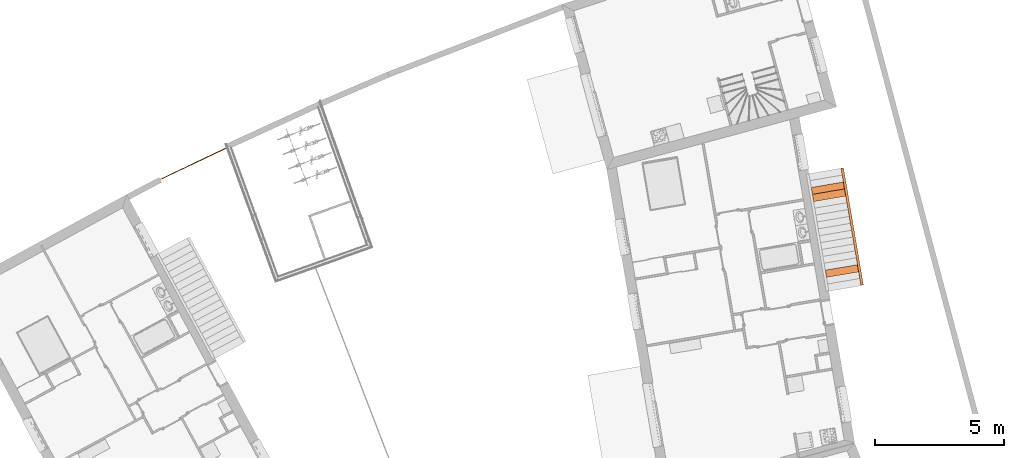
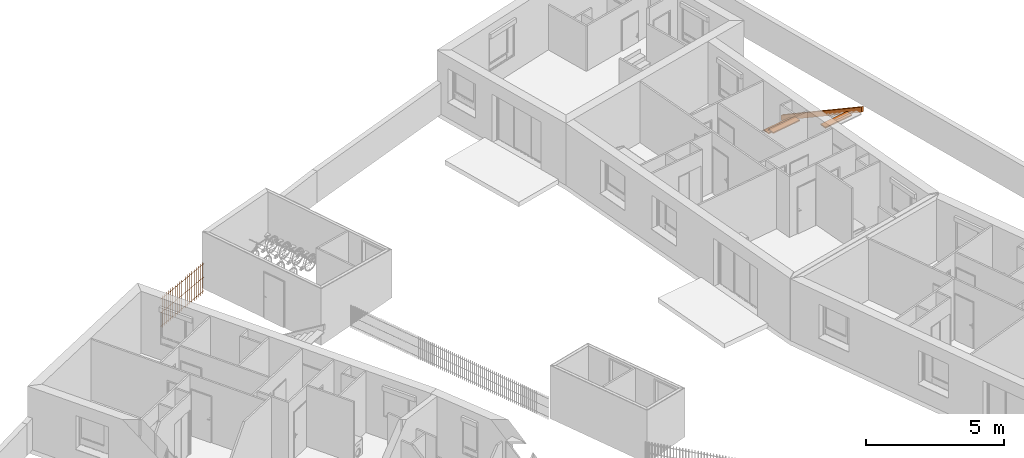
# One storey, part 194 of 195: 5 proxies, 1 element without a shape of its own.
"""IFC2X3 building model written with IfcOpenShell, lengths in metres."""

from ifc_helpers import new_model, entity, si_unit, converted_unit, derived_unit, money_unit, direction, frame, origin_with_axes, place, context, subcontext, project, spatial, faceted_brep, material, type_object, element, aggregate, save


model = new_model("IFC2X3")

# Units and contexts
model_context = context("Model", 3, precision=1e-05, world=origin_with_axes(), true_north=direction((0.0, 1.0)))
body_context = subcontext(model_context, "Body", "Model", "MODEL_VIEW")
ifc_project = project(units=[si_unit("LENGTHUNIT", "METRE"), si_unit("AREAUNIT", "SQUARE_METRE"), si_unit("VOLUMEUNIT", "CUBIC_METRE"), converted_unit("PLANEANGLEUNIT", "DEGREE", entity("IfcPlaneAngleMeasure", 0.0174532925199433), si_unit("PLANEANGLEUNIT", "RADIAN"), dimensions=[0, 0, 0, 0, 0, 0, 0]), money_unit("CHF"), converted_unit("TIMEUNIT", "Year", entity("IfcTimeMeasure", 31557600.0), si_unit("TIMEUNIT", "SECOND"), dimensions=[0, 0, 1, 0, 0, 0, 0]), si_unit("MASSUNIT", "GRAM", prefix="KILO"), si_unit("THERMODYNAMICTEMPERATUREUNIT", "DEGREE_CELSIUS"), si_unit("LUMINOUSINTENSITYUNIT", "LUMEN"), si_unit("ENERGYUNIT", "JOULE", prefix="MEGA"), derived_unit("THERMALCONDUCTANCEUNIT", [(si_unit("POWERUNIT", "WATT"), 1), (si_unit("LENGTHUNIT", "METRE"), -1), (si_unit("THERMODYNAMICTEMPERATUREUNIT", "KELVIN"), -1)]), derived_unit("SPECIFICHEATCAPACITYUNIT", [(si_unit("ENERGYUNIT", "JOULE"), 1), (si_unit("MASSUNIT", "GRAM", prefix="KILO"), -1), (si_unit("THERMODYNAMICTEMPERATUREUNIT", "KELVIN"), -1)]), derived_unit("MASSDENSITYUNIT", [(si_unit("MASSUNIT", "GRAM", prefix="KILO"), 1), (si_unit("VOLUMEUNIT", "CUBIC_METRE"), -1)])], contexts=[model_context])

# Site, building, storey
site_placement = place(None, origin_with_axes())
site = spatial("IfcSite", under=ifc_project, at=site_placement, Name="Site", CompositionType="ELEMENT")
building_placement = place(site_placement, origin_with_axes())
building = spatial("IfcBuilding", under=site, at=building_placement, Name="Bâtiment", CompositionType="ELEMENT")
storey_placement = place(building_placement, origin_with_axes())
storey = spatial("IfcBuildingStorey", under=building, at=storey_placement, Name="rdc", CompositionType="ELEMENT", Elevation=0.0)

# Stair, proxies
stair_placement = place(storey_placement, frame((9588.879218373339, -1022.991794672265, 57.33248236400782), z_axis=(0.0, 0.0, 1.0), x_axis=(0.0973908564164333, 0.9952462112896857, 0.0)))
stair = element("IfcStair", 1, at=stair_placement, inside=storey, Name="ESC-028", ShapeType="NOTDEFINED")
ifc_material_1 = material(Name="Isolant styromousse 288701002")
building_element_proxy_type_1 = type_object("IfcBuildingElementProxyType", Name="IfcBuildingElementProxy", PredefinedType="NOTDEFINED")
proxy_1_placement = place(stair_placement, origin_with_axes())
proxy_1 = element("IfcBuildingElementProxy", 2, at=proxy_1_placement, type_object=building_element_proxy_type_1, material=ifc_material_1, Name="SS - 039", context=body_context, shape_type="Brep", body=[
    faceted_brep([(-4.428745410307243, -1.205949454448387, 2.882482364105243), (-4.428745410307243, -1.205949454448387, 3.117517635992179), (0.0, 0.0, 0.2841843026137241), (0.0, 0.0, 0.04914903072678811), (-4.402472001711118, -1.302436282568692, 3.117517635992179), (-4.402472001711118, -1.302436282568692, 2.882482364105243), (0.02627340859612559, -0.09648682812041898, 0.2841843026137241), (0.02627340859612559, -0.09648682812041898, 0.04914903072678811)], [[[0, 1, 2, 3]], [[4, 1, 0, 5]], [[1, 4, 6, 2]], [[2, 6, 7, 3]], [[5, 0, 3, 7]], [[4, 5, 7, 6]]]),
])
ifc_material_2 = material(Name="Lame d'air 275581351")
proxy_2_placement = place(stair_placement, frame((-0.6484549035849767, 0.3260847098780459, 0.5), z_axis=(0.0, 0.0, 1.0), x_axis=(-0.2627340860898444, 0.9648682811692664, 0.0)))
proxy_2 = element("IfcBuildingElementProxy", 3, at=proxy_2_placement, type_object=building_element_proxy_type_1, material=ifc_material_2, Name="MARCHE-539", context=body_context, shape_type="Brep", body=[
    faceted_brep([(-0.4850000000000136, 0.0, -0.04999999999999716), (0.7724423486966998, 2.853539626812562e-10, -0.04999999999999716), (0.7724423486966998, 2.853539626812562e-10, 0.0), (-0.4850000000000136, 0.0, 0.0), (-0.4849999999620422, 0.2849999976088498, -0.04999999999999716), (0.772442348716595, 0.2849999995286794, -0.04999999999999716), (0.772442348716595, 0.2849999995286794, 0.0), (-0.4849999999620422, 0.2849999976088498, 0.0)], [[[0, 1, 2, 3]], [[0, 4, 5, 1]], [[1, 5, 6, 2]], [[3, 2, 6, 7]], [[4, 0, 3, 7]], [[5, 4, 7, 6]]]),
])
proxy_3_placement = place(stair_placement, frame((-0.9089693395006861, 0.2551465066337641, 0.6666666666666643), z_axis=(0.0, 0.0, 1.0), x_axis=(-0.2627340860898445, 0.9648682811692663, 0.0)))
proxy_3 = element("IfcBuildingElementProxy", 4, at=proxy_3_placement, type_object=building_element_proxy_type_1, material=ifc_material_2, Name="MARCHE-540", context=body_context, shape_type="Brep", body=[
    faceted_brep([(-0.4850000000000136, 0.0, -0.04999999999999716), (0.7724423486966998, 2.853539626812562e-10, -0.04999999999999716), (0.7724423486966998, 2.853539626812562e-10, 0.0), (-0.4850000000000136, 0.0, 0.0), (-0.4849999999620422, 0.2849999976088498, -0.04999999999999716), (0.772442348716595, 0.2849999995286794, -0.04999999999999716), (0.772442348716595, 0.2849999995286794, 0.0), (-0.4849999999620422, 0.2849999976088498, 0.0)], [[[0, 1, 2, 3]], [[0, 4, 5, 1]], [[1, 5, 6, 2]], [[3, 2, 6, 7]], [[4, 0, 3, 7]], [[5, 4, 7, 6]]]),
])
proxy_4_placement = place(stair_placement, frame((-3.774628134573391, -0.5251737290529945, 2.5), z_axis=(0.0, 0.0, 1.0), x_axis=(-0.2627340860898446, 0.9648682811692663, 0.0)))
proxy_4 = element("IfcBuildingElementProxy", 5, at=proxy_4_placement, type_object=building_element_proxy_type_1, material=ifc_material_2, Name="MARCHE-551", context=body_context, shape_type="Brep", body=[
    faceted_brep([(-0.4850000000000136, 0.0, -0.04999999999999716), (0.7724423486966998, 2.853255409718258e-10, -0.04999999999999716), (0.7724423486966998, 2.853255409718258e-10, 0.0), (-0.4850000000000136, 0.0, 0.0), (-0.4849999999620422, 0.2849999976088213, -0.04999999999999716), (0.7724423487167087, 0.284999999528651, -0.04999999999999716), (0.7724423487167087, 0.284999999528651, 0.0), (-0.4849999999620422, 0.2849999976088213, 0.0)], [[[0, 1, 2, 3]], [[0, 4, 5, 1]], [[1, 5, 6, 2]], [[3, 2, 6, 7]], [[4, 0, 3, 7]], [[5, 4, 7, 6]]]),
])
aggregate(stair, [proxy_1, proxy_2, proxy_3, proxy_4])

# Proxy
building_element_proxy_type_2 = type_object("IfcBuildingElementProxyType", Name="Grille anti-effraction", PredefinedType="NOTDEFINED")
proxy_5_placement = place(storey_placement, frame((9563.855791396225, -1022.821889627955, 57.6), z_axis=(0.0, 0.0, 1.0), x_axis=(-0.9033265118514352, -0.4289536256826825, 0.0)))
element("IfcBuildingElementProxy", 6, at=proxy_5_placement, inside=storey, type_object=building_element_proxy_type_2, Name="Obj.-010", context=body_context, shape_type="Brep", body=[
    faceted_brep([(1.38612976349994, -0.01, 0.1), (1.38612976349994, 0.0, 0.09000000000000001), (1.38612976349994, 0.01, 0.1), (1.38612976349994, 0.0, 0.11), (-1.38612976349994, -0.01, 0.1000000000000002), (-1.38612976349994, 0.0, 0.09000000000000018), (-1.38612976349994, 0.01, 0.1000000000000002), (-1.38612976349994, 0.0, 0.1100000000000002)], [[[0, 1, 2, 3]], [[0, 4, 5, 1]], [[1, 5, 6, 2]], [[2, 6, 7, 3]], [[3, 7, 4, 0]], [[4, 7, 6, 5]]]),
    faceted_brep([(1.38612976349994, -0.01, 0.7), (1.38612976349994, 0.0, 0.69), (1.38612976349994, 0.01, 0.7), (1.38612976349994, 0.0, 0.71), (-1.38612976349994, -0.01, 0.7000000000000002), (-1.38612976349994, 0.0, 0.6900000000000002), (-1.38612976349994, 0.01, 0.7000000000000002), (-1.38612976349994, 0.0, 0.7100000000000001)], [[[0, 1, 2, 3]], [[0, 4, 5, 1]], [[1, 5, 6, 2]], [[2, 6, 7, 3]], [[3, 7, 4, 0]], [[4, 7, 6, 5]]]),
    faceted_brep([(1.38612976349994, -0.01, 1.3), (1.38612976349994, 0.0, 1.29), (1.38612976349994, 0.01, 1.3), (1.38612976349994, 0.0, 1.31), (-1.38612976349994, -0.01, 1.3), (-1.38612976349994, 0.0, 1.29), (-1.38612976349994, 0.01, 1.3), (-1.38612976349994, 0.0, 1.31)], [[[0, 1, 2, 3]], [[0, 4, 5, 1]], [[1, 5, 6, 2]], [[2, 6, 7, 3]], [[3, 7, 4, 0]], [[4, 7, 6, 5]]]),
    faceted_brep([(1.28612976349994, -0.01, 0.0), (1.27612976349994, 0.0, 0.0), (1.28612976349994, 0.01, 0.0), (1.29612976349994, 0.0, 0.0), (1.28612976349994, -0.01, 1.4), (1.27612976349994, 0.0, 1.4), (1.28612976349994, 0.01, 1.4), (1.29612976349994, 0.0, 1.4)], [[[0, 1, 2, 3]], [[0, 4, 5, 1]], [[1, 5, 6, 2]], [[2, 6, 7, 3]], [[3, 7, 4, 0]], [[4, 7, 6, 5]]]),
    faceted_brep([(1.150747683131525, -0.01, 0.0), (1.140747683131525, 0.0, 0.0), (1.150747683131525, 0.01, 0.0), (1.160747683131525, 0.0, 0.0), (1.150747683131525, -0.01, 1.4), (1.140747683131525, 0.0, 1.4), (1.150747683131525, 0.01, 1.4), (1.160747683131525, 0.0, 1.4)], [[[0, 1, 2, 3]], [[0, 4, 5, 1]], [[1, 5, 6, 2]], [[2, 6, 7, 3]], [[3, 7, 4, 0]], [[4, 7, 6, 5]]]),
    faceted_brep([(1.01536560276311, -0.01, 0.0), (1.00536560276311, 0.0, 0.0), (1.01536560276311, 0.01, 0.0), (1.02536560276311, 0.0, 0.0), (1.01536560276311, -0.01, 1.4), (1.00536560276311, 0.0, 1.4), (1.01536560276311, 0.01, 1.4), (1.02536560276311, 0.0, 1.4)], [[[0, 1, 2, 3]], [[0, 4, 5, 1]], [[1, 5, 6, 2]], [[2, 6, 7, 3]], [[3, 7, 4, 0]], [[4, 7, 6, 5]]]),
    faceted_brep([(0.8799835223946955, -0.01, 0.0), (0.8699835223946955, 0.0, 0.0), (0.8799835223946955, 0.01, 0.0), (0.8899835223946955, 0.0, 0.0), (0.8799835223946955, -0.01, 1.4), (0.8699835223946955, 0.0, 1.4), (0.8799835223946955, 0.01, 1.4), (0.8899835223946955, 0.0, 1.4)], [[[0, 1, 2, 3]], [[0, 4, 5, 1]], [[1, 5, 6, 2]], [[2, 6, 7, 3]], [[3, 7, 4, 0]], [[4, 7, 6, 5]]]),
    faceted_brep([(0.7446014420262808, -0.01, 0.0), (0.7346014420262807, 0.0, 0.0), (0.7446014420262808, 0.01, 0.0), (0.7546014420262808, 0.0, 0.0), (0.7446014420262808, -0.01, 1.4), (0.7346014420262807, 0.0, 1.4), (0.7446014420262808, 0.01, 1.4), (0.7546014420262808, 0.0, 1.4)], [[[0, 1, 2, 3]], [[0, 4, 5, 1]], [[1, 5, 6, 2]], [[2, 6, 7, 3]], [[3, 7, 4, 0]], [[4, 7, 6, 5]]]),
    faceted_brep([(0.609219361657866, -0.01, 0.0), (0.599219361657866, 0.0, 0.0), (0.609219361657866, 0.01, 0.0), (0.6192193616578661, 0.0, 0.0), (0.609219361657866, -0.01, 1.4), (0.599219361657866, 0.0, 1.4), (0.609219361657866, 0.01, 1.4), (0.6192193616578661, 0.0, 1.4)], [[[0, 1, 2, 3]], [[0, 4, 5, 1]], [[1, 5, 6, 2]], [[2, 6, 7, 3]], [[3, 7, 4, 0]], [[4, 7, 6, 5]]]),
    faceted_brep([(0.4738372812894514, -0.01, 0.0), (0.4638372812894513, 0.0, 0.0), (0.4738372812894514, 0.01, 0.0), (0.4838372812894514, 0.0, 0.0), (0.4738372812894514, -0.01, 1.4), (0.4638372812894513, 0.0, 1.4), (0.4738372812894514, 0.01, 1.4), (0.4838372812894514, 0.0, 1.4)], [[[0, 1, 2, 3]], [[0, 4, 5, 1]], [[1, 5, 6, 2]], [[2, 6, 7, 3]], [[3, 7, 4, 0]], [[4, 7, 6, 5]]]),
    faceted_brep([(0.3384552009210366, -0.01, 0.0), (0.3284552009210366, 0.0, 0.0), (0.3384552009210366, 0.01, 0.0), (0.3484552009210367, 0.0, 0.0), (0.3384552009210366, -0.01, 1.4), (0.3284552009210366, 0.0, 1.4), (0.3384552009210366, 0.01, 1.4), (0.3484552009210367, 0.0, 1.4)], [[[0, 1, 2, 3]], [[0, 4, 5, 1]], [[1, 5, 6, 2]], [[2, 6, 7, 3]], [[3, 7, 4, 0]], [[4, 7, 6, 5]]]),
    faceted_brep([(0.2030731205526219, -0.01, 0.0), (0.1930731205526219, 0.0, 0.0), (0.2030731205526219, 0.01, 0.0), (0.213073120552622, 0.0, 0.0), (0.2030731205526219, -0.01, 1.4), (0.1930731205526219, 0.0, 1.4), (0.2030731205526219, 0.01, 1.4), (0.213073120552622, 0.0, 1.4)], [[[0, 1, 2, 3]], [[0, 4, 5, 1]], [[1, 5, 6, 2]], [[2, 6, 7, 3]], [[3, 7, 4, 0]], [[4, 7, 6, 5]]]),
    faceted_brep([(0.06769104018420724, -0.01, 0.0), (0.05769104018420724, 0.0, 0.0), (0.06769104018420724, 0.01, 0.0), (0.07769104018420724, 0.0, 0.0), (0.06769104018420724, -0.01, 1.4), (0.05769104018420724, 0.0, 1.4), (0.06769104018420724, 0.01, 1.4), (0.07769104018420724, 0.0, 1.4)], [[[0, 1, 2, 3]], [[0, 4, 5, 1]], [[1, 5, 6, 2]], [[2, 6, 7, 3]], [[3, 7, 4, 0]], [[4, 7, 6, 5]]]),
    faceted_brep([(-0.06769104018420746, -0.01, 0.0), (-0.07769104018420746, 0.0, 0.0), (-0.06769104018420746, 0.01, 0.0), (-0.05769104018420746, 0.0, 0.0), (-0.06769104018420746, -0.01, 1.4), (-0.07769104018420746, 0.0, 1.4), (-0.06769104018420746, 0.01, 1.4), (-0.05769104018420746, 0.0, 1.4)], [[[0, 1, 2, 3]], [[0, 4, 5, 1]], [[1, 5, 6, 2]], [[2, 6, 7, 3]], [[3, 7, 4, 0]], [[4, 7, 6, 5]]]),
    faceted_brep([(-0.2030731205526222, -0.01, 0.0), (-0.2130731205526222, 0.0, 0.0), (-0.2030731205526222, 0.01, 0.0), (-0.1930731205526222, 0.0, 0.0), (-0.2030731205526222, -0.01, 1.4), (-0.2130731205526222, 0.0, 1.4), (-0.2030731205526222, 0.01, 1.4), (-0.1930731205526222, 0.0, 1.4)], [[[0, 1, 2, 3]], [[0, 4, 5, 1]], [[1, 5, 6, 2]], [[2, 6, 7, 3]], [[3, 7, 4, 0]], [[4, 7, 6, 5]]]),
    faceted_brep([(-0.3384552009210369, -0.01, 0.0), (-0.3484552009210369, 0.0, 0.0), (-0.3384552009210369, 0.01, 0.0), (-0.3284552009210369, 0.0, 0.0), (-0.3384552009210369, -0.01, 1.4), (-0.3484552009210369, 0.0, 1.4), (-0.3384552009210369, 0.01, 1.4), (-0.3284552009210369, 0.0, 1.4)], [[[0, 1, 2, 3]], [[0, 4, 5, 1]], [[1, 5, 6, 2]], [[2, 6, 7, 3]], [[3, 7, 4, 0]], [[4, 7, 6, 5]]]),
    faceted_brep([(-0.4738372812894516, -0.01, 0.0), (-0.4838372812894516, 0.0, 0.0), (-0.4738372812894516, 0.01, 0.0), (-0.4638372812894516, 0.0, 0.0), (-0.4738372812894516, -0.01, 1.4), (-0.4838372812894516, 0.0, 1.4), (-0.4738372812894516, 0.01, 1.4), (-0.4638372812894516, 0.0, 1.4)], [[[0, 1, 2, 3]], [[0, 4, 5, 1]], [[1, 5, 6, 2]], [[2, 6, 7, 3]], [[3, 7, 4, 0]], [[4, 7, 6, 5]]]),
    faceted_brep([(-0.6092193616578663, -0.01, 0.0), (-0.6192193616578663, 0.0, 0.0), (-0.6092193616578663, 0.01, 0.0), (-0.5992193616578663, 0.0, 0.0), (-0.6092193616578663, -0.01, 1.4), (-0.6192193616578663, 0.0, 1.4), (-0.6092193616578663, 0.01, 1.4), (-0.5992193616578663, 0.0, 1.4)], [[[0, 1, 2, 3]], [[0, 4, 5, 1]], [[1, 5, 6, 2]], [[2, 6, 7, 3]], [[3, 7, 4, 0]], [[4, 7, 6, 5]]]),
    faceted_brep([(-0.744601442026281, -0.01, 0.0), (-0.754601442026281, 0.0, 0.0), (-0.744601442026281, 0.01, 0.0), (-0.734601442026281, 0.0, 0.0), (-0.744601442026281, -0.01, 1.4), (-0.754601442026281, 0.0, 1.4), (-0.744601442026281, 0.01, 1.4), (-0.734601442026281, 0.0, 1.4)], [[[0, 1, 2, 3]], [[0, 4, 5, 1]], [[1, 5, 6, 2]], [[2, 6, 7, 3]], [[3, 7, 4, 0]], [[4, 7, 6, 5]]]),
    faceted_brep([(-0.8799835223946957, -0.01, 0.0), (-0.8899835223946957, 0.0, 0.0), (-0.8799835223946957, 0.01, 0.0), (-0.8699835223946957, 0.0, 0.0), (-0.8799835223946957, -0.01, 1.4), (-0.8899835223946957, 0.0, 1.4), (-0.8799835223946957, 0.01, 1.4), (-0.8699835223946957, 0.0, 1.4)], [[[0, 1, 2, 3]], [[0, 4, 5, 1]], [[1, 5, 6, 2]], [[2, 6, 7, 3]], [[3, 7, 4, 0]], [[4, 7, 6, 5]]]),
    faceted_brep([(-1.01536560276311, -0.01, 0.0), (-1.02536560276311, 0.0, 0.0), (-1.01536560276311, 0.01, 0.0), (-1.00536560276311, 0.0, 0.0), (-1.01536560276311, -0.01, 1.4), (-1.02536560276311, 0.0, 1.4), (-1.01536560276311, 0.01, 1.4), (-1.00536560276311, 0.0, 1.4)], [[[0, 1, 2, 3]], [[0, 4, 5, 1]], [[1, 5, 6, 2]], [[2, 6, 7, 3]], [[3, 7, 4, 0]], [[4, 7, 6, 5]]]),
    faceted_brep([(-1.150747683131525, -0.01, 0.0), (-1.160747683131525, 0.0, 0.0), (-1.150747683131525, 0.01, 0.0), (-1.140747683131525, 0.0, 0.0), (-1.150747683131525, -0.01, 1.4), (-1.160747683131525, 0.0, 1.4), (-1.150747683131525, 0.01, 1.4), (-1.140747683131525, 0.0, 1.4)], [[[0, 1, 2, 3]], [[0, 4, 5, 1]], [[1, 5, 6, 2]], [[2, 6, 7, 3]], [[3, 7, 4, 0]], [[4, 7, 6, 5]]]),
    faceted_brep([(-1.28612976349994, -0.01, 0.0), (-1.29612976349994, 0.0, 0.0), (-1.28612976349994, 0.01, 0.0), (-1.27612976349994, 0.0, 0.0), (-1.28612976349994, -0.01, 1.4), (-1.29612976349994, 0.0, 1.4), (-1.28612976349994, 0.01, 1.4), (-1.27612976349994, 0.0, 1.4)], [[[0, 1, 2, 3]], [[0, 4, 5, 1]], [[1, 5, 6, 2]], [[2, 6, 7, 3]], [[3, 7, 4, 0]], [[4, 7, 6, 5]]]),
])

save(model, "model.ifc")
